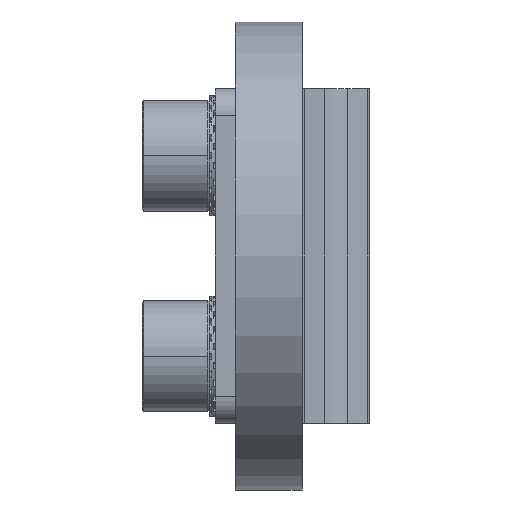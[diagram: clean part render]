
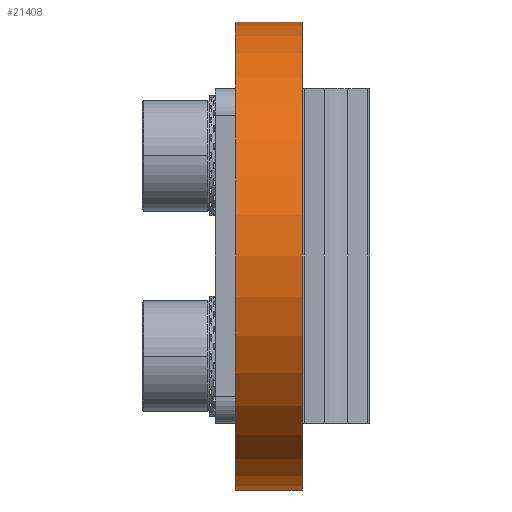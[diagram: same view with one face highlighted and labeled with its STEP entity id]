
A CAD part, left-side view. The second image highlights one B-rep face of the part: STEP entity #21408.
In plain terms, the highlighted cylindrical face has radius 17.5 mm (diameter 35 mm), a partial arc.
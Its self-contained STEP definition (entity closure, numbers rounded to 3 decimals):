
#584 = VECTOR ( 'NONE', #19916, 1000. ) ;
#1122 = CARTESIAN_POINT ( 'NONE',  ( 0., 2.5, -17.5 ) ) ;
#1332 = CARTESIAN_POINT ( 'NONE',  ( 0., 2.5, 0. ) ) ;
#1503 = CARTESIAN_POINT ( 'NONE',  ( 0., 2.5, 17.5 ) ) ;
#2436 = EDGE_CURVE ( 'NONE', #6758, #6142, #16321, .T. ) ;
#2892 = ORIENTED_EDGE ( 'NONE', *, *, #2436, .F. ) ;
#3469 = VECTOR ( 'NONE', #6249, 1000. ) ;
#3621 = EDGE_CURVE ( 'NONE', #6758, #10866, #15141, .T. ) ;
#5573 = EDGE_LOOP ( 'NONE', ( #14828, #2892, #20405, #13814 ) ) ;
#5711 = CARTESIAN_POINT ( 'NONE',  ( 0., -2.5, 0. ) ) ;
#5862 = CARTESIAN_POINT ( 'NONE',  ( 0., 2.5, 17.5 ) ) ;
#5920 = VERTEX_POINT ( 'NONE', #19845 ) ;
#6142 = VERTEX_POINT ( 'NONE', #5862 ) ;
#6249 = DIRECTION ( 'NONE',  ( 0., -1., 0. ) ) ;
#6758 = VERTEX_POINT ( 'NONE', #19382 ) ;
#6795 = DIRECTION ( 'NONE',  ( 0., -1., 0. ) ) ;
#7267 = FACE_OUTER_BOUND ( 'NONE', #5573, .T. ) ;
#7516 = CYLINDRICAL_SURFACE ( 'NONE', #9714, 17.5 ) ;
#8256 = EDGE_CURVE ( 'NONE', #10866, #5920, #18064, .T. ) ;
#9714 = AXIS2_PLACEMENT_3D ( 'NONE', #15414, #6795, #20704 ) ;
#10645 = LINE ( 'NONE', #1503, #584 ) ;
#10662 = DIRECTION ( 'NONE',  ( 0., 1., 0. ) ) ;
#10866 = VERTEX_POINT ( 'NONE', #19693 ) ;
#12205 = AXIS2_PLACEMENT_3D ( 'NONE', #1332, #12952, #16634 ) ;
#12952 = DIRECTION ( 'NONE',  ( 0., 1., 0. ) ) ;
#13814 = ORIENTED_EDGE ( 'NONE', *, *, #8256, .T. ) ;
#14100 = DIRECTION ( 'NONE',  ( 0., 0., 1. ) ) ;
#14828 = ORIENTED_EDGE ( 'NONE', *, *, #15928, .F. ) ;
#15141 = LINE ( 'NONE', #1122, #3469 ) ;
#15414 = CARTESIAN_POINT ( 'NONE',  ( 0., 2.5, 0. ) ) ;
#15561 = AXIS2_PLACEMENT_3D ( 'NONE', #5711, #10662, #14100 ) ;
#15928 = EDGE_CURVE ( 'NONE', #6142, #5920, #10645, .T. ) ;
#16321 = CIRCLE ( 'NONE', #12205, 17.5 ) ;
#16634 = DIRECTION ( 'NONE',  ( 0., 0., 1. ) ) ;
#18064 = CIRCLE ( 'NONE', #15561, 17.5 ) ;
#19382 = CARTESIAN_POINT ( 'NONE',  ( 0., 2.5, -17.5 ) ) ;
#19693 = CARTESIAN_POINT ( 'NONE',  ( 0., -2.5, -17.5 ) ) ;
#19845 = CARTESIAN_POINT ( 'NONE',  ( 0., -2.5, 17.5 ) ) ;
#19916 = DIRECTION ( 'NONE',  ( 0., -1., 0. ) ) ;
#20405 = ORIENTED_EDGE ( 'NONE', *, *, #3621, .T. ) ;
#20704 = DIRECTION ( 'NONE',  ( 0., 0., -1. ) ) ;
#21408 = ADVANCED_FACE ( 'NONE', ( #7267 ), #7516, .T. ) ;
